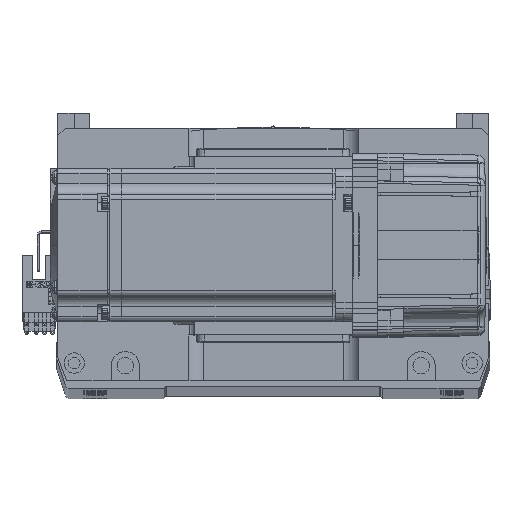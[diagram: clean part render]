
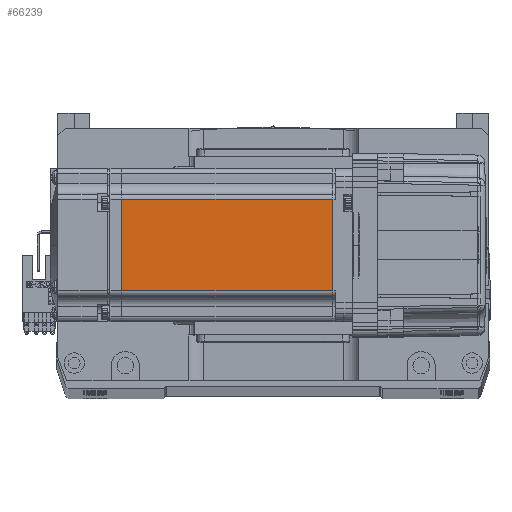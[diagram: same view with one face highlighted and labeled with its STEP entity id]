
A CAD part, top view. The second image highlights one B-rep face of the part: STEP entity #66239.
In plain terms, the highlighted planar face has unit normal (0, 0, 1).
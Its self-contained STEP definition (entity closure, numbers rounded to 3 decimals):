
#2269 = DIRECTION ( 'NONE',  ( 0., 0., 1. ) ) ;
#4717 = VERTEX_POINT ( 'NONE', #47925 ) ;
#4796 = FACE_OUTER_BOUND ( 'NONE', #62228, .T. ) ;
#7149 = EDGE_CURVE ( 'NONE', #50603, #29194, #57662, .T. ) ;
#7489 = VECTOR ( 'NONE', #50556, 1000. ) ;
#9144 = LINE ( 'NONE', #43907, #7489 ) ;
#10524 = DIRECTION ( 'NONE',  ( 0., -1., 0. ) ) ;
#11875 = EDGE_CURVE ( 'NONE', #4717, #63774, #17087, .T. ) ;
#15950 = VECTOR ( 'NONE', #63266, 1000. ) ;
#17087 = LINE ( 'NONE', #32160, #44904 ) ;
#18629 = EDGE_CURVE ( 'NONE', #4717, #50603, #9144, .T. ) ;
#19781 = AXIS2_PLACEMENT_3D ( 'NONE', #23074, #2269, #44075 ) ;
#22050 = ORIENTED_EDGE ( 'NONE', *, *, #7149, .F. ) ;
#22070 = CARTESIAN_POINT ( 'NONE',  ( -6.5, -18., 30. ) ) ;
#22838 = PLANE ( 'NONE',  #19781 ) ;
#23074 = CARTESIAN_POINT ( 'NONE',  ( -6.5, -25., 30. ) ) ;
#28272 = CARTESIAN_POINT ( 'NONE',  ( -7.75, -18., 30. ) ) ;
#29194 = VERTEX_POINT ( 'NONE', #54351 ) ;
#29283 = CARTESIAN_POINT ( 'NONE',  ( -90.45, 18., 30. ) ) ;
#31219 = EDGE_CURVE ( 'NONE', #63774, #29194, #66264, .T. ) ;
#32160 = CARTESIAN_POINT ( 'NONE',  ( -6.5, 18., 30. ) ) ;
#34553 = ORIENTED_EDGE ( 'NONE', *, *, #18629, .F. ) ;
#38405 = VECTOR ( 'NONE', #10524, 1000. ) ;
#43907 = CARTESIAN_POINT ( 'NONE',  ( -7.75, 0., 30. ) ) ;
#44075 = DIRECTION ( 'NONE',  ( 1., 0., 0. ) ) ;
#44904 = VECTOR ( 'NONE', #63739, 1000. ) ;
#47031 = ORIENTED_EDGE ( 'NONE', *, *, #11875, .T. ) ;
#47925 = CARTESIAN_POINT ( 'NONE',  ( -7.75, 18., 30. ) ) ;
#50556 = DIRECTION ( 'NONE',  ( 0., -1., 0. ) ) ;
#50603 = VERTEX_POINT ( 'NONE', #28272 ) ;
#54351 = CARTESIAN_POINT ( 'NONE',  ( -90.45, -18., 30. ) ) ;
#56905 = CARTESIAN_POINT ( 'NONE',  ( -90.45, 0., 30. ) ) ;
#57662 = LINE ( 'NONE', #22070, #15950 ) ;
#59658 = ORIENTED_EDGE ( 'NONE', *, *, #31219, .T. ) ;
#62228 = EDGE_LOOP ( 'NONE', ( #34553, #47031, #59658, #22050 ) ) ;
#63266 = DIRECTION ( 'NONE',  ( -1., 0., 0. ) ) ;
#63739 = DIRECTION ( 'NONE',  ( -1., 0., 0. ) ) ;
#63774 = VERTEX_POINT ( 'NONE', #29283 ) ;
#66239 = ADVANCED_FACE ( 'NONE', ( #4796 ), #22838, .T. ) ;
#66264 = LINE ( 'NONE', #56905, #38405 ) ;
